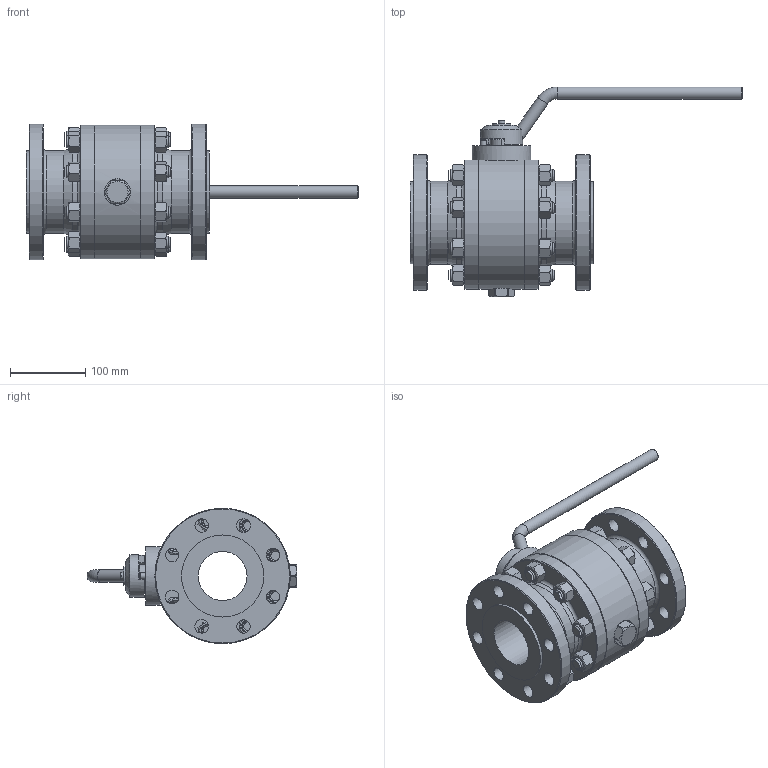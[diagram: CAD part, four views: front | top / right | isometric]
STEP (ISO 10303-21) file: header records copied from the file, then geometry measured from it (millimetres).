
FILE_DESCRIPTION(('STEP AP203'), '1');
FILE_NAME('ZARDP 065.040.22.P.stp', '2013-12-06T09:05:39', ('1'), ('1'), 'ASCON STEP Converter 1.3', 'Kompas 3D', '');
FILE_SCHEMA(('CONFIG_CONTROL_DESIGN','SUPPORT_RESOURCE_SCHEMA'));
Length unit declared in the file: millimetre
Products named in the file (1): 226
Bounding box: 440.81 x 278.75 x 180 mm (x, y, z)
Volume: 3483581.7 mm3; surface area: 460585.2 mm2
Topology: 1 solids, 15 shells, 542 faces, 1250 edges, 791 vertices
Faces by surface type: plane 285, cylinder 128, cone 124, torus 5
Full cylindrical faces by diameter (mm): 5 x1, 5.3 x1, 6 x4, 6.8 x4, 8 x6, 8.5 x1, 9 x4, 13 x4, 14 x4, 16 x26, 18 x24, 18.5 x1, 20 x1, 20.5 x1, 25 x1, 30 x1, 35 x1, 40 x1, 40.5 x1, 56 x1, 65 x2, 78 x1, 109 x2, 110 x3, 116 x2, 180 x2
Entity records: 24923 total; most frequent: CARTESIAN_POINT 12609, DIRECTION 2518, ORIENTED_EDGE 2484, EDGE_CURVE 1242, AXIS2_PLACEMENT_3D 1010, VERTEX_POINT 791, EDGE_LOOP 675, ADVANCED_FACE 542
